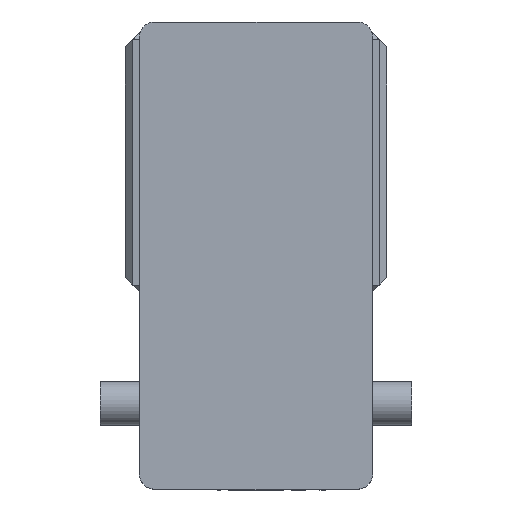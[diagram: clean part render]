
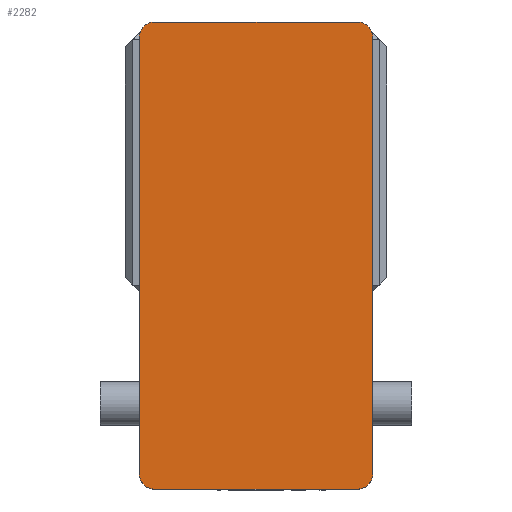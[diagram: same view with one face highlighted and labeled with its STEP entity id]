
A CAD part, left-side view. The second image highlights one B-rep face of the part: STEP entity #2282.
In plain terms, the highlighted planar face has unit normal (-1, 0, 0) as drawn and (0, 0, 1) by its records, which use the part's own axes.
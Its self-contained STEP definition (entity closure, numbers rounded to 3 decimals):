
#530 = CARTESIAN_POINT ( 'NONE',  ( -75., -140., 105. ) ) ;
#820 = ORIENTED_EDGE ( 'NONE', *, *, #9111, .T. ) ;
#1275 = FACE_OUTER_BOUND ( 'NONE', #10866, .T. ) ;
#1470 = ORIENTED_EDGE ( 'NONE', *, *, #9040, .T. ) ;
#1483 = DIRECTION ( 'NONE',  ( 1., 0., 0. ) ) ;
#1488 = DIRECTION ( 'NONE',  ( 0., 0., 1. ) ) ;
#1513 = PLANE ( 'NONE',  #9931 ) ;
#1607 = CARTESIAN_POINT ( 'NONE',  ( 0., 0., 105. ) ) ;
#1660 = ORIENTED_EDGE ( 'NONE', *, *, #9280, .T. ) ;
#1802 = ORIENTED_EDGE ( 'NONE', *, *, #8646, .T. ) ;
#2018 = DIRECTION ( 'NONE',  ( 1., 0., 0. ) ) ;
#2042 = CARTESIAN_POINT ( 'NONE',  ( 75., -140., 105. ) ) ;
#2056 = DIRECTION ( 'NONE',  ( -1., 0., 0. ) ) ;
#2076 = CARTESIAN_POINT ( 'NONE',  ( -75., 150., 105. ) ) ;
#2282 = ADVANCED_FACE ( 'NONE', ( #1275 ), #1513, .T. ) ;
#2659 = CARTESIAN_POINT ( 'NONE',  ( -75., -150., 105. ) ) ;
#3093 = VERTEX_POINT ( 'NONE', #6264 ) ;
#3202 = CARTESIAN_POINT ( 'NONE',  ( 65., 150., 105. ) ) ;
#3555 = VERTEX_POINT ( 'NONE', #3202 ) ;
#3736 = CARTESIAN_POINT ( 'NONE',  ( -65., -150., 105. ) ) ;
#3760 = ORIENTED_EDGE ( 'NONE', *, *, #9198, .T. ) ;
#3992 = DIRECTION ( 'NONE',  ( 0., 1., 0. ) ) ;
#4188 = CARTESIAN_POINT ( 'NONE',  ( 75., 150., 105. ) ) ;
#5085 = VERTEX_POINT ( 'NONE', #3736 ) ;
#5306 = CARTESIAN_POINT ( 'NONE',  ( -75., 150., 105. ) ) ;
#5534 = DIRECTION ( 'NONE',  ( 0., -1., 0. ) ) ;
#5835 = CIRCLE ( 'NONE', #10634, 10. ) ;
#5912 = CIRCLE ( 'NONE', #10718, 10. ) ;
#5985 = ORIENTED_EDGE ( 'NONE', *, *, #9194, .T. ) ;
#6001 = ORIENTED_EDGE ( 'NONE', *, *, #8432, .T. ) ;
#6009 = CIRCLE ( 'NONE', #11118, 10. ) ;
#6070 = CIRCLE ( 'NONE', #11059, 10. ) ;
#6170 = VECTOR ( 'NONE', #2018, 1000. ) ;
#6209 = LINE ( 'NONE', #2659, #6170 ) ;
#6264 = CARTESIAN_POINT ( 'NONE',  ( 65., -150., 105. ) ) ;
#6367 = LINE ( 'NONE', #5306, #6378 ) ;
#6378 = VECTOR ( 'NONE', #5534, 1000. ) ;
#7164 = VECTOR ( 'NONE', #2056, 1000. ) ;
#7252 = LINE ( 'NONE', #2076, #7164 ) ;
#7356 = VERTEX_POINT ( 'NONE', #10761 ) ;
#7556 = VECTOR ( 'NONE', #3992, 1000. ) ;
#7572 = LINE ( 'NONE', #4188, #7556 ) ;
#7939 = VERTEX_POINT ( 'NONE', #8233 ) ;
#8233 = CARTESIAN_POINT ( 'NONE',  ( 75., 140., 105. ) ) ;
#8432 = EDGE_CURVE ( 'NONE', #8657, #7939, #7572, .T. ) ;
#8646 = EDGE_CURVE ( 'NONE', #3555, #8902, #7252, .T. ) ;
#8657 = VERTEX_POINT ( 'NONE', #2042 ) ;
#8902 = VERTEX_POINT ( 'NONE', #10628 ) ;
#9040 = EDGE_CURVE ( 'NONE', #7356, #10860, #6367, .T. ) ;
#9111 = EDGE_CURVE ( 'NONE', #5085, #3093, #6209, .T. ) ;
#9194 = EDGE_CURVE ( 'NONE', #3093, #8657, #6070, .T. ) ;
#9198 = EDGE_CURVE ( 'NONE', #7939, #3555, #6009, .T. ) ;
#9280 = EDGE_CURVE ( 'NONE', #8902, #7356, #5912, .T. ) ;
#9327 = EDGE_CURVE ( 'NONE', #10860, #5085, #5835, .T. ) ;
#9755 = DIRECTION ( 'NONE',  ( 1., 0., 0. ) ) ;
#9804 = DIRECTION ( 'NONE',  ( 0., 0., 1. ) ) ;
#9832 = CARTESIAN_POINT ( 'NONE',  ( -65., -140., 105. ) ) ;
#9931 = AXIS2_PLACEMENT_3D ( 'NONE', #1607, #1488, #1483 ) ;
#10194 = DIRECTION ( 'NONE',  ( 1., 0., 0. ) ) ;
#10203 = DIRECTION ( 'NONE',  ( 0., 0., 1. ) ) ;
#10232 = CARTESIAN_POINT ( 'NONE',  ( -65., 140., 105. ) ) ;
#10628 = CARTESIAN_POINT ( 'NONE',  ( -65., 150., 105. ) ) ;
#10634 = AXIS2_PLACEMENT_3D ( 'NONE', #9832, #9804, #9755 ) ;
#10718 = AXIS2_PLACEMENT_3D ( 'NONE', #10232, #10203, #10194 ) ;
#10761 = CARTESIAN_POINT ( 'NONE',  ( -75., 140., 105. ) ) ;
#10860 = VERTEX_POINT ( 'NONE', #530 ) ;
#10866 = EDGE_LOOP ( 'NONE', ( #820, #5985, #6001, #3760, #1802, #1660, #1470, #10930 ) ) ;
#10930 = ORIENTED_EDGE ( 'NONE', *, *, #9327, .T. ) ;
#10945 = DIRECTION ( 'NONE',  ( 1., 0., 0. ) ) ;
#10980 = DIRECTION ( 'NONE',  ( 0., 0., 1. ) ) ;
#11010 = CARTESIAN_POINT ( 'NONE',  ( 65., 140., 105. ) ) ;
#11059 = AXIS2_PLACEMENT_3D ( 'NONE', #11095, #11086, #11061 ) ;
#11061 = DIRECTION ( 'NONE',  ( 1., 0., 0. ) ) ;
#11086 = DIRECTION ( 'NONE',  ( 0., 0., 1. ) ) ;
#11095 = CARTESIAN_POINT ( 'NONE',  ( 65., -140., 105. ) ) ;
#11118 = AXIS2_PLACEMENT_3D ( 'NONE', #11010, #10980, #10945 ) ;
